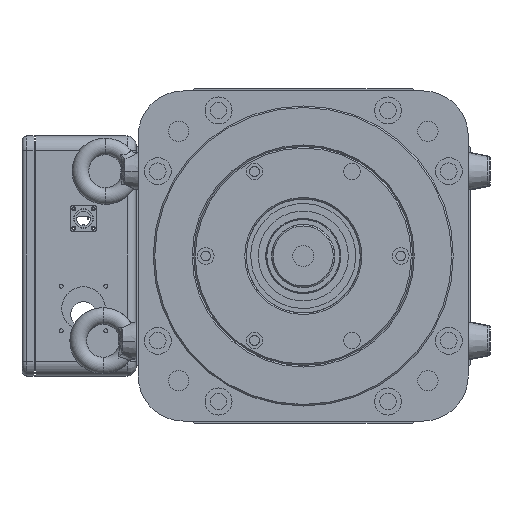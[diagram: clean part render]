
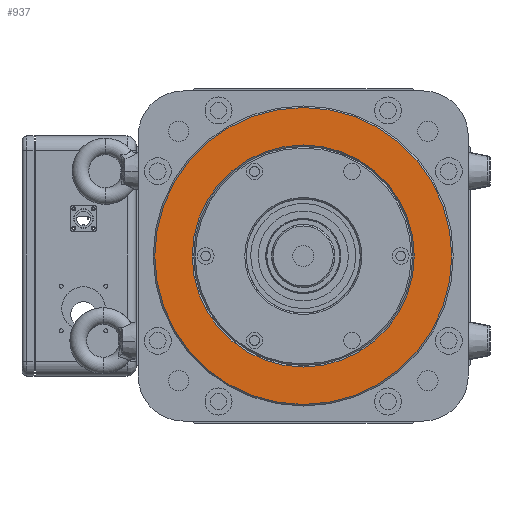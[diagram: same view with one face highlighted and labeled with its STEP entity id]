
A CAD part, left-side view. The second image highlights one B-rep face of the part: STEP entity #937.
In plain terms, the highlighted planar face has unit normal (-1, 0, 0).
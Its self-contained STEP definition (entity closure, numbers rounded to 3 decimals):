
#555 = EDGE_CURVE('',#556,#558,#560,.T.);
#556 = VERTEX_POINT('',#557);
#557 = CARTESIAN_POINT('',(-47.5,0.,-99.));
#558 = VERTEX_POINT('',#559);
#559 = CARTESIAN_POINT('',(-47.5,0.,99.));
#560 = CIRCLE('',#561,99.);
#561 = AXIS2_PLACEMENT_3D('',#562,#563,#564);
#562 = CARTESIAN_POINT('',(-47.5,0.,0.));
#563 = DIRECTION('',(1.,-0.,0.));
#564 = DIRECTION('',(0.,0.,-1.));
#590 = VERTEX_POINT('',#591);
#591 = CARTESIAN_POINT('',(-47.5,0.,74.));
#597 = EDGE_CURVE('',#590,#598,#600,.T.);
#598 = VERTEX_POINT('',#599);
#599 = CARTESIAN_POINT('',(-47.5,0.,-74.));
#600 = CIRCLE('',#601,74.);
#601 = AXIS2_PLACEMENT_3D('',#602,#603,#604);
#602 = CARTESIAN_POINT('',(-47.5,0.,0.));
#603 = DIRECTION('',(1.,-0.,0.));
#604 = DIRECTION('',(0.,0.,-1.));
#917 = EDGE_CURVE('',#598,#590,#918,.T.);
#918 = CIRCLE('',#919,74.);
#919 = AXIS2_PLACEMENT_3D('',#920,#921,#922);
#920 = CARTESIAN_POINT('',(-47.5,0.,0.));
#921 = DIRECTION('',(1.,-0.,0.));
#922 = DIRECTION('',(0.,0.,-1.));
#937 = ADVANCED_FACE('',(#938,#948),#952,.F.);
#938 = FACE_BOUND('',#939,.T.);
#939 = EDGE_LOOP('',(#940,#941));
#940 = ORIENTED_EDGE('',*,*,#555,.F.);
#941 = ORIENTED_EDGE('',*,*,#942,.F.);
#942 = EDGE_CURVE('',#558,#556,#943,.T.);
#943 = CIRCLE('',#944,99.);
#944 = AXIS2_PLACEMENT_3D('',#945,#946,#947);
#945 = CARTESIAN_POINT('',(-47.5,0.,0.));
#946 = DIRECTION('',(1.,-0.,0.));
#947 = DIRECTION('',(0.,0.,-1.));
#948 = FACE_BOUND('',#949,.T.);
#949 = EDGE_LOOP('',(#950,#951));
#950 = ORIENTED_EDGE('',*,*,#597,.T.);
#951 = ORIENTED_EDGE('',*,*,#917,.T.);
#952 = PLANE('',#953);
#953 = AXIS2_PLACEMENT_3D('',#954,#955,#956);
#954 = CARTESIAN_POINT('',(-47.5,74.,0.));
#955 = DIRECTION('',(1.,-0.,0.));
#956 = DIRECTION('',(0.,0.,-1.));
